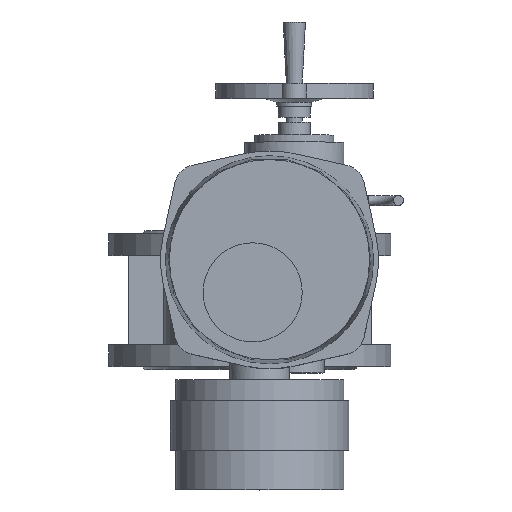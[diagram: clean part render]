
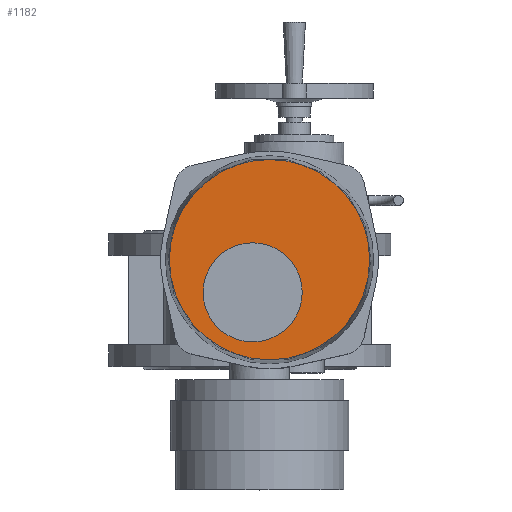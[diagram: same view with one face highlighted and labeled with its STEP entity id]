
A CAD part, top view. The second image highlights one B-rep face of the part: STEP entity #1182.
In plain terms, the highlighted planar face has unit normal (0, 0, 1).
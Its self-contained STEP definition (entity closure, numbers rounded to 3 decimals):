
#1182=ADVANCED_FACE('',(#2658,#2660),#2662,.T.);
#2658=FACE_BOUND('',#2659,.T.);
#2659=EDGE_LOOP('',(#3583));
#2660=FACE_BOUND('',#2661,.T.);
#2661=EDGE_LOOP('',(#3584));
#2662=PLANE('',#2663);
#2663=AXIS2_PLACEMENT_3D('',#2664,#2665,#2666);
#2664=CARTESIAN_POINT('',(20.,40.,463.));
#2665=DIRECTION('',(0.,0.,1.));
#2666=DIRECTION('',(-1.,0.,0.));
#3583=ORIENTED_EDGE('',*,*,#4025,.T.);
#3584=ORIENTED_EDGE('',*,*,#4030,.F.);
#4025=EDGE_CURVE('',#4600,#4600,#4601,.T.);
#4030=EDGE_CURVE('',#4610,#4610,#4611,.T.);
#4600=VERTEX_POINT('',#6979);
#4601=CIRCLE('',#6980,101.069);
#4610=VERTEX_POINT('',#7004);
#4611=CIRCLE('',#7005,50.);
#6979=CARTESIAN_POINT('',(-81.069,40.,463.));
#6980=AXIS2_PLACEMENT_3D('',#6981,#6982,#6983);
#6981=CARTESIAN_POINT('',(20.,40.,463.));
#6982=DIRECTION('',(0.,0.,1.));
#6983=DIRECTION('',(-1.,0.,0.));
#7004=CARTESIAN_POINT('',(-47.,7.,463.));
#7005=AXIS2_PLACEMENT_3D('',#7006,#7007,#7008);
#7006=CARTESIAN_POINT('',(3.,7.,463.));
#7007=DIRECTION('',(0.,0.,1.));
#7008=DIRECTION('',(-1.,0.,0.));
